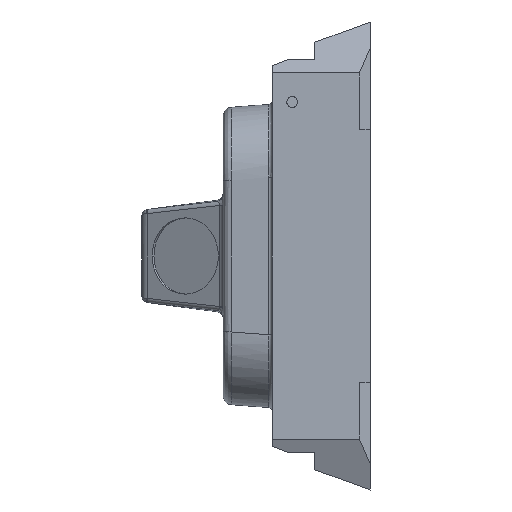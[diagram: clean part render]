
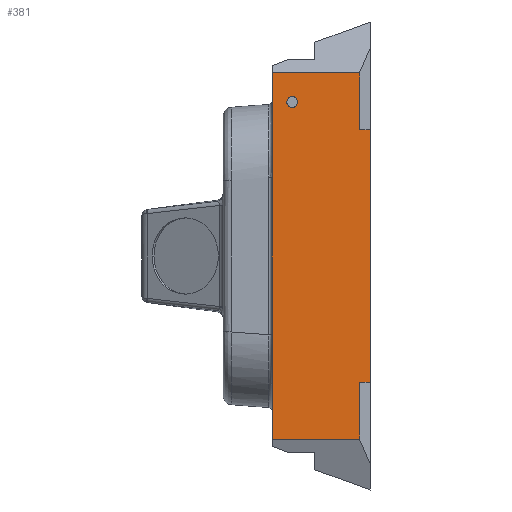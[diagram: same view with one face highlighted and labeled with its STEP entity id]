
A CAD part, left-side view. The second image highlights one B-rep face of the part: STEP entity #381.
In plain terms, the highlighted planar face has unit normal (-1, 0, 0).
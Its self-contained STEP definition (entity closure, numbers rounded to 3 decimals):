
#213 = CARTESIAN_POINT ( 'NONE',  ( 0., 58.5, -114.6 ) ) ;
#264 = EDGE_CURVE ( 'NONE', #4054, #1696, #7801, .T. ) ;
#286 = CARTESIAN_POINT ( 'NONE',  ( 0., 21.5, -20.5 ) ) ;
#381 = ADVANCED_FACE ( 'NONE', ( #3897, #4654 ), #6023, .T. ) ;
#446 = CARTESIAN_POINT ( 'NONE',  ( 0., 3., -29.6 ) ) ;
#543 = LINE ( 'NONE', #446, #8484 ) ;
#573 = LINE ( 'NONE', #2737, #2898 ) ;
#621 = AXIS2_PLACEMENT_3D ( 'NONE', #8977, #2718, #6937 ) ;
#648 = EDGE_CURVE ( 'NONE', #8000, #1583, #573, .T. ) ;
#1197 = LINE ( 'NONE', #4050, #5068 ) ;
#1198 = DIRECTION ( 'NONE',  ( -1., 0., 0. ) ) ;
#1277 = VERTEX_POINT ( 'NONE', #6116 ) ;
#1453 = CARTESIAN_POINT ( 'NONE',  ( 0., 3., -99. ) ) ;
#1472 = EDGE_LOOP ( 'NONE', ( #4704, #8500, #2059, #3636, #2553, #6549, #8958, #6080 ) ) ;
#1583 = VERTEX_POINT ( 'NONE', #5936 ) ;
#1637 = VECTOR ( 'NONE', #6064, 1000. ) ;
#1696 = VERTEX_POINT ( 'NONE', #286 ) ;
#1713 = ORIENTED_EDGE ( 'NONE', *, *, #6110, .F. ) ;
#1842 = VERTEX_POINT ( 'NONE', #5553 ) ;
#2059 = ORIENTED_EDGE ( 'NONE', *, *, #2321, .F. ) ;
#2321 = EDGE_CURVE ( 'NONE', #1277, #1842, #5140, .T. ) ;
#2357 = DIRECTION ( 'NONE',  ( -1., 0., 0. ) ) ;
#2457 = LINE ( 'NONE', #6868, #1637 ) ;
#2553 = ORIENTED_EDGE ( 'NONE', *, *, #3732, .T. ) ;
#2654 = VERTEX_POINT ( 'NONE', #7033 ) ;
#2711 = VERTEX_POINT ( 'NONE', #1453 ) ;
#2718 = DIRECTION ( 'NONE',  ( -1., 0., 0. ) ) ;
#2737 = CARTESIAN_POINT ( 'NONE',  ( 0., 27., -9.827 ) ) ;
#2898 = VECTOR ( 'NONE', #3515, 1000. ) ;
#2904 = CARTESIAN_POINT ( 'NONE',  ( 0., 3., -14. ) ) ;
#2957 = DIRECTION ( 'NONE',  ( 0., 0., 1. ) ) ;
#2959 = VECTOR ( 'NONE', #8685, 1000. ) ;
#3269 = VECTOR ( 'NONE', #3864, 1000. ) ;
#3515 = DIRECTION ( 'NONE',  ( 0., 0., 1. ) ) ;
#3636 = ORIENTED_EDGE ( 'NONE', *, *, #7651, .T. ) ;
#3700 = CARTESIAN_POINT ( 'NONE',  ( 0., 27., -114.6 ) ) ;
#3732 = EDGE_CURVE ( 'NONE', #2654, #6018, #543, .T. ) ;
#3795 = AXIS2_PLACEMENT_3D ( 'NONE', #8024, #2357, #2957 ) ;
#3802 = EDGE_LOOP ( 'NONE', ( #1713, #4787 ) ) ;
#3864 = DIRECTION ( 'NONE',  ( 0., -1., 0. ) ) ;
#3897 = FACE_OUTER_BOUND ( 'NONE', #1472, .T. ) ;
#4050 = CARTESIAN_POINT ( 'NONE',  ( 0., 0., -29.6 ) ) ;
#4054 = VERTEX_POINT ( 'NONE', #8222 ) ;
#4104 = LINE ( 'NONE', #8171, #7855 ) ;
#4654 = FACE_BOUND ( 'NONE', #3802, .T. ) ;
#4662 = DIRECTION ( 'NONE',  ( 0., -1., 0. ) ) ;
#4704 = ORIENTED_EDGE ( 'NONE', *, *, #6537, .F. ) ;
#4787 = ORIENTED_EDGE ( 'NONE', *, *, #264, .F. ) ;
#4867 = AXIS2_PLACEMENT_3D ( 'NONE', #8905, #1198, #6682 ) ;
#5068 = VECTOR ( 'NONE', #6679, 1000. ) ;
#5099 = DIRECTION ( 'NONE',  ( 0., 0., -1. ) ) ;
#5140 = LINE ( 'NONE', #5777, #6356 ) ;
#5211 = VERTEX_POINT ( 'NONE', #5946 ) ;
#5553 = CARTESIAN_POINT ( 'NONE',  ( 0., 0., -99. ) ) ;
#5777 = CARTESIAN_POINT ( 'NONE',  ( 0., 0., -2.3 ) ) ;
#5842 = CARTESIAN_POINT ( 'NONE',  ( 0., 3., -99. ) ) ;
#5936 = CARTESIAN_POINT ( 'NONE',  ( 0., 27., -14. ) ) ;
#5946 = CARTESIAN_POINT ( 'NONE',  ( 0., 3., -114.6 ) ) ;
#6018 = VERTEX_POINT ( 'NONE', #2904 ) ;
#6023 = PLANE ( 'NONE',  #4867 ) ;
#6064 = DIRECTION ( 'NONE',  ( 0., 1., 0. ) ) ;
#6080 = ORIENTED_EDGE ( 'NONE', *, *, #6284, .T. ) ;
#6110 = EDGE_CURVE ( 'NONE', #1696, #4054, #7846, .T. ) ;
#6116 = CARTESIAN_POINT ( 'NONE',  ( 0., 0., -29.6 ) ) ;
#6272 = DIRECTION ( 'NONE',  ( 0., 0., 1. ) ) ;
#6284 = EDGE_CURVE ( 'NONE', #8000, #5211, #8081, .T. ) ;
#6356 = VECTOR ( 'NONE', #5099, 1000. ) ;
#6537 = EDGE_CURVE ( 'NONE', #2711, #5211, #8649, .T. ) ;
#6549 = ORIENTED_EDGE ( 'NONE', *, *, #6689, .F. ) ;
#6679 = DIRECTION ( 'NONE',  ( 0., 1., 0. ) ) ;
#6682 = DIRECTION ( 'NONE',  ( 0., 0., 1. ) ) ;
#6689 = EDGE_CURVE ( 'NONE', #1583, #6018, #4104, .T. ) ;
#6868 = CARTESIAN_POINT ( 'NONE',  ( 0., 0., -99. ) ) ;
#6937 = DIRECTION ( 'NONE',  ( 0., 0., 1. ) ) ;
#7033 = CARTESIAN_POINT ( 'NONE',  ( 0., 3., -29.6 ) ) ;
#7651 = EDGE_CURVE ( 'NONE', #1277, #2654, #1197, .T. ) ;
#7801 = CIRCLE ( 'NONE', #3795, 1.5 ) ;
#7846 = CIRCLE ( 'NONE', #621, 1.5 ) ;
#7855 = VECTOR ( 'NONE', #4662, 1000. ) ;
#8000 = VERTEX_POINT ( 'NONE', #3700 ) ;
#8024 = CARTESIAN_POINT ( 'NONE',  ( 0., 21.5, -22. ) ) ;
#8081 = LINE ( 'NONE', #213, #3269 ) ;
#8171 = CARTESIAN_POINT ( 'NONE',  ( 0., 58.5, -14. ) ) ;
#8222 = CARTESIAN_POINT ( 'NONE',  ( 0., 21.5, -23.5 ) ) ;
#8484 = VECTOR ( 'NONE', #6272, 1000. ) ;
#8500 = ORIENTED_EDGE ( 'NONE', *, *, #8514, .F. ) ;
#8514 = EDGE_CURVE ( 'NONE', #1842, #2711, #2457, .T. ) ;
#8649 = LINE ( 'NONE', #5842, #2959 ) ;
#8685 = DIRECTION ( 'NONE',  ( 0., 0., -1. ) ) ;
#8905 = CARTESIAN_POINT ( 'NONE',  ( 0., 0., 0. ) ) ;
#8958 = ORIENTED_EDGE ( 'NONE', *, *, #648, .F. ) ;
#8977 = CARTESIAN_POINT ( 'NONE',  ( 0., 21.5, -22. ) ) ;
